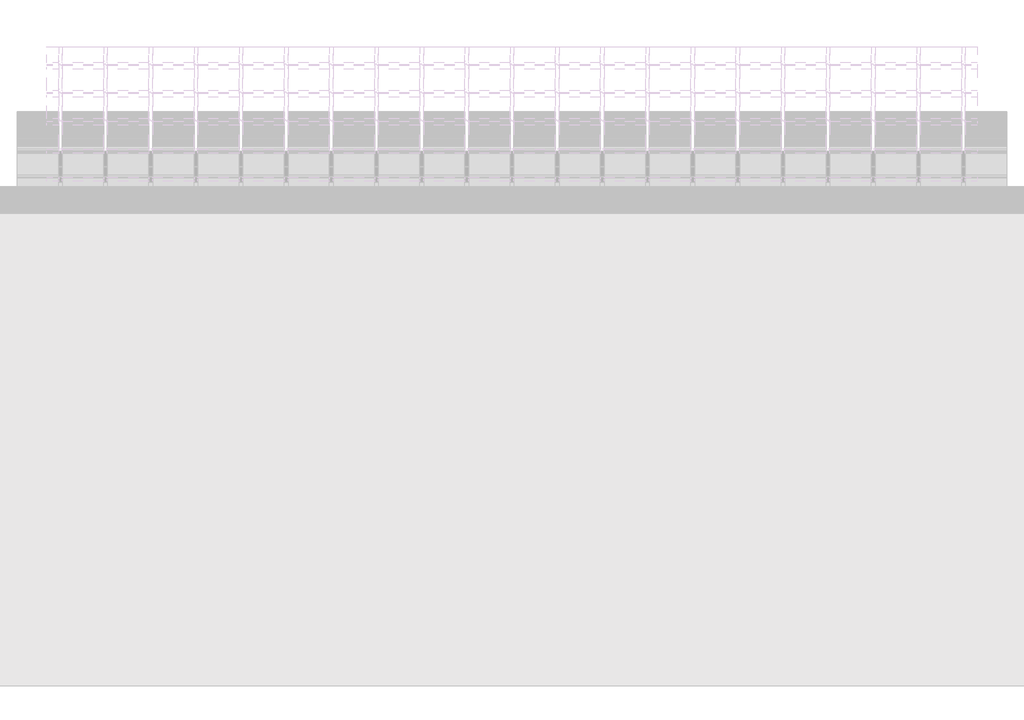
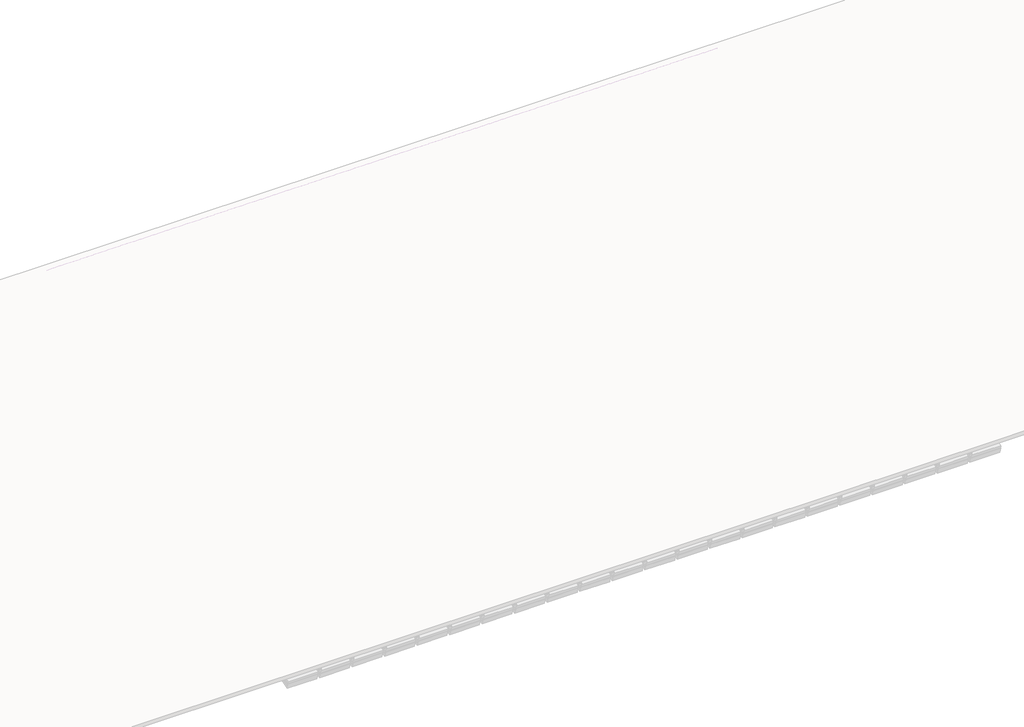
# One storey, part 37 of 57: 78 members, 46 plates.
"""IFC4 building model written with IfcOpenShell, lengths in millimetres."""

from ifc_helpers import new_model, si_unit, origin, place, context, project, spatial, transform, mapped, element, save
from components import rectangular_mullion_59984080, rectangular_mullion_2d2423ea, rectangular_mullion_caibro_e4384bba, rectangular_mullion_caibro_9bd7bc61, empty_system_panel_vazio_178faf58, empty_system_panel_vazio_2c78850d

model = new_model("IFC4")

# Units and contexts
model_context = context("Model", 3, world=origin())
ifc_project = project(units=[si_unit("LENGTHUNIT", "METRE", prefix="MILLI")], contexts=[model_context])

# Site, building, storey
site = spatial("IfcSite", under=ifc_project)
building = spatial("IfcBuilding", under=site)
storey = spatial("IfcBuildingStorey", under=building, Name="Nível 2", Elevation=4100.0)

# Members
placement = place(None, origin())
rectangular_mullion_shape = rectangular_mullion_59984080(model_context)
element("IfcMember", 1, ObjectType="Rectangular Mullion : Ripa", at=placement, inside=storey, context=model_context, shape_type="MappedRepresentation", body=[
    mapped(rectangular_mullion_shape, transform((30435.3089606, 10013.4695628, 4154.0900474), x_axis=(0.0, 0.9578262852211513, 0.2873478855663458), y_axis=(0.0, 0.2873478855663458, -0.9578262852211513), z_axis=(-1.0, 0.0, 0.0))),
])
element("IfcMember", 2, ObjectType="Rectangular Mullion : Ripa", at=placement, inside=storey, context=model_context, shape_type="MappedRepresentation", body=[
    mapped(rectangular_mullion_shape, transform((31032.363717, 10013.4695628, 4154.0900474), x_axis=(0.0, 0.9578262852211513, 0.2873478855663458), y_axis=(0.0, 0.2873478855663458, -0.9578262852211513), z_axis=(-1.0, 0.0, 0.0))),
])
element("IfcMember", 3, ObjectType="Rectangular Mullion : Ripa", at=placement, inside=storey, context=model_context, shape_type="MappedRepresentation", body=[
    mapped(rectangular_mullion_shape, transform((31629.4184734, 10013.4695628, 4154.0900474), x_axis=(0.0, 0.9578262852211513, 0.2873478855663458), y_axis=(0.0, 0.2873478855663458, -0.9578262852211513), z_axis=(-1.0, 0.0, 0.0))),
])
element("IfcMember", 4, ObjectType="Rectangular Mullion : Ripa", at=placement, inside=storey, context=model_context, shape_type="MappedRepresentation", body=[
    mapped(rectangular_mullion_shape, transform((30435.3089606, 10383.6468214, 4265.143225), x_axis=(0.0, 0.9578262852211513, 0.2873478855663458), y_axis=(0.0, 0.2873478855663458, -0.9578262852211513), z_axis=(-1.0, 0.0, 0.0))),
])
element("IfcMember", 5, ObjectType="Rectangular Mullion : Ripa", at=placement, inside=storey, context=model_context, shape_type="MappedRepresentation", body=[
    mapped(rectangular_mullion_shape, transform((31032.363717, 10383.6468214, 4265.143225), x_axis=(0.0, 0.9578262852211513, 0.2873478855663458), y_axis=(0.0, 0.2873478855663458, -0.9578262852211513), z_axis=(-1.0, 0.0, 0.0))),
])
element("IfcMember", 6, ObjectType="Rectangular Mullion : Ripa", at=placement, inside=storey, context=model_context, shape_type="MappedRepresentation", body=[
    mapped(rectangular_mullion_shape, transform((31629.4184734, 10383.6468214, 4265.143225), x_axis=(0.0, 0.9578262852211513, 0.2873478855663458), y_axis=(0.0, 0.2873478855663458, -0.9578262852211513), z_axis=(-1.0, 0.0, 0.0))),
])
element("IfcMember", 7, ObjectType="Rectangular Mullion : Ripa", at=placement, inside=storey, context=model_context, shape_type="MappedRepresentation", body=[
    mapped(rectangular_mullion_shape, transform((30435.3089606, 10753.8240801, 4376.1964026), x_axis=(0.0, 0.9578262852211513, 0.2873478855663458), y_axis=(0.0, 0.2873478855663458, -0.9578262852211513), z_axis=(-1.0, 0.0, 0.0))),
])
element("IfcMember", 8, ObjectType="Rectangular Mullion : Ripa", at=placement, inside=storey, context=model_context, shape_type="MappedRepresentation", body=[
    mapped(rectangular_mullion_shape, transform((31032.363717, 10753.8240801, 4376.1964026), x_axis=(0.0, 0.9578262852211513, 0.2873478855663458), y_axis=(0.0, 0.2873478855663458, -0.9578262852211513), z_axis=(-1.0, 0.0, 0.0))),
])
element("IfcMember", 9, ObjectType="Rectangular Mullion : Ripa", at=placement, inside=storey, context=model_context, shape_type="MappedRepresentation", body=[
    mapped(rectangular_mullion_shape, transform((31629.4184734, 10753.8240801, 4376.1964026), x_axis=(0.0, 0.9578262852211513, 0.2873478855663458), y_axis=(0.0, 0.2873478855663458, -0.9578262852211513), z_axis=(-1.0, 0.0, 0.0))),
])
element("IfcMember", 10, ObjectType="Rectangular Mullion : Ripa", at=placement, inside=storey, context=model_context, shape_type="MappedRepresentation", body=[
    mapped(rectangular_mullion_shape, transform((28047.0899349, 11124.0013387, 4487.2495802), x_axis=(0.0, 0.9578262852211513, 0.2873478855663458), y_axis=(0.0, 0.2873478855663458, -0.9578262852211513), z_axis=(-1.0, 0.0, 0.0))),
])
element("IfcMember", 11, ObjectType="Rectangular Mullion : Ripa", at=placement, inside=storey, context=model_context, shape_type="MappedRepresentation", body=[
    mapped(rectangular_mullion_shape, transform((28644.1446913, 11124.0013387, 4487.2495802), x_axis=(0.0, 0.9578262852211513, 0.2873478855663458), y_axis=(0.0, 0.2873478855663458, -0.9578262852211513), z_axis=(-1.0, 0.0, 0.0))),
])
element("IfcMember", 12, ObjectType="Rectangular Mullion : Ripa", at=placement, inside=storey, context=model_context, shape_type="MappedRepresentation", body=[
    mapped(rectangular_mullion_shape, transform((29241.1994477, 11124.0013387, 4487.2495802), x_axis=(0.0, 0.9578262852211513, 0.2873478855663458), y_axis=(0.0, 0.2873478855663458, -0.9578262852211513), z_axis=(-1.0, 0.0, 0.0))),
])
element("IfcMember", 13, ObjectType="Rectangular Mullion : Ripa", at=placement, inside=storey, context=model_context, shape_type="MappedRepresentation", body=[
    mapped(rectangular_mullion_shape, transform((29838.2542041, 11124.0013387, 4487.2495802), x_axis=(0.0, 0.9578262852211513, 0.2873478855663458), y_axis=(0.0, 0.2873478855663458, -0.9578262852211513), z_axis=(-1.0, 0.0, 0.0))),
])
element("IfcMember", 14, ObjectType="Rectangular Mullion : Ripa", at=placement, inside=storey, context=model_context, shape_type="MappedRepresentation", body=[
    mapped(rectangular_mullion_shape, transform((30435.3089606, 11124.0013387, 4487.2495802), x_axis=(0.0, 0.9578262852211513, 0.2873478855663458), y_axis=(0.0, 0.2873478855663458, -0.9578262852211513), z_axis=(-1.0, 0.0, 0.0))),
])
element("IfcMember", 15, ObjectType="Rectangular Mullion : Ripa", at=placement, inside=storey, context=model_context, shape_type="MappedRepresentation", body=[
    mapped(rectangular_mullion_shape, transform((31032.363717, 11124.0013387, 4487.2495802), x_axis=(0.0, 0.9578262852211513, 0.2873478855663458), y_axis=(0.0, 0.2873478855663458, -0.9578262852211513), z_axis=(-1.0, 0.0, 0.0))),
])
element("IfcMember", 16, ObjectType="Rectangular Mullion : Ripa", at=placement, inside=storey, context=model_context, shape_type="MappedRepresentation", body=[
    mapped(rectangular_mullion_shape, transform((31629.4184734, 11124.0013387, 4487.2495802), x_axis=(0.0, 0.9578262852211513, 0.2873478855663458), y_axis=(0.0, 0.2873478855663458, -0.9578262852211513), z_axis=(-1.0, 0.0, 0.0))),
])
element("IfcMember", 17, ObjectType="Rectangular Mullion : Ripa", at=placement, inside=storey, context=model_context, shape_type="MappedRepresentation", body=[
    mapped(rectangular_mullion_shape, transform((28047.0899349, 11494.1785974, 4598.3027578), x_axis=(0.0, 0.9578262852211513, 0.2873478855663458), y_axis=(0.0, 0.2873478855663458, -0.9578262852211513), z_axis=(-1.0, 0.0, 0.0))),
])
element("IfcMember", 18, ObjectType="Rectangular Mullion : Ripa", at=placement, inside=storey, context=model_context, shape_type="MappedRepresentation", body=[
    mapped(rectangular_mullion_shape, transform((28644.1446913, 11494.1785974, 4598.3027578), x_axis=(0.0, 0.9578262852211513, 0.2873478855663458), y_axis=(0.0, 0.2873478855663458, -0.9578262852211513), z_axis=(-1.0, 0.0, 0.0))),
])
element("IfcMember", 19, ObjectType="Rectangular Mullion : Ripa", at=placement, inside=storey, context=model_context, shape_type="MappedRepresentation", body=[
    mapped(rectangular_mullion_shape, transform((29241.1994477, 11494.1785974, 4598.3027578), x_axis=(0.0, 0.9578262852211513, 0.2873478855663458), y_axis=(0.0, 0.2873478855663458, -0.9578262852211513), z_axis=(-1.0, 0.0, 0.0))),
])
element("IfcMember", 20, ObjectType="Rectangular Mullion : Ripa", at=placement, inside=storey, context=model_context, shape_type="MappedRepresentation", body=[
    mapped(rectangular_mullion_shape, transform((29838.2542041, 11494.1785974, 4598.3027578), x_axis=(0.0, 0.9578262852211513, 0.2873478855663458), y_axis=(0.0, 0.2873478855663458, -0.9578262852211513), z_axis=(-1.0, 0.0, 0.0))),
])
element("IfcMember", 21, ObjectType="Rectangular Mullion : Ripa", at=placement, inside=storey, context=model_context, shape_type="MappedRepresentation", body=[
    mapped(rectangular_mullion_shape, transform((30435.3089606, 11494.1785974, 4598.3027578), x_axis=(0.0, 0.9578262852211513, 0.2873478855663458), y_axis=(0.0, 0.2873478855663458, -0.9578262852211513), z_axis=(-1.0, 0.0, 0.0))),
])
element("IfcMember", 22, ObjectType="Rectangular Mullion : Ripa", at=placement, inside=storey, context=model_context, shape_type="MappedRepresentation", body=[
    mapped(rectangular_mullion_shape, transform((31032.363717, 11494.1785974, 4598.3027578), x_axis=(0.0, 0.9578262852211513, 0.2873478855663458), y_axis=(0.0, 0.2873478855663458, -0.9578262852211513), z_axis=(-1.0, 0.0, 0.0))),
])
element("IfcMember", 23, ObjectType="Rectangular Mullion : Ripa", at=placement, inside=storey, context=model_context, shape_type="MappedRepresentation", body=[
    mapped(rectangular_mullion_shape, transform((31629.4184734, 11494.1785974, 4598.3027578), x_axis=(0.0, 0.9578262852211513, 0.2873478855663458), y_axis=(0.0, 0.2873478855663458, -0.9578262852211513), z_axis=(-1.0, 0.0, 0.0))),
])
element("IfcMember", 24, ObjectType="Rectangular Mullion : Ripa", at=placement, inside=storey, context=model_context, shape_type="MappedRepresentation", body=[
    mapped(rectangular_mullion_shape, transform((28047.0899349, 11864.3558561, 4709.3559354), x_axis=(0.0, 0.9578262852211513, 0.2873478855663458), y_axis=(0.0, 0.2873478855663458, -0.9578262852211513), z_axis=(-1.0, 0.0, 0.0))),
])
element("IfcMember", 25, ObjectType="Rectangular Mullion : Ripa", at=placement, inside=storey, context=model_context, shape_type="MappedRepresentation", body=[
    mapped(rectangular_mullion_shape, transform((28644.1446913, 11864.3558561, 4709.3559354), x_axis=(0.0, 0.9578262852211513, 0.2873478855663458), y_axis=(0.0, 0.2873478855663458, -0.9578262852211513), z_axis=(-1.0, 0.0, 0.0))),
])
element("IfcMember", 26, ObjectType="Rectangular Mullion : Ripa", at=placement, inside=storey, context=model_context, shape_type="MappedRepresentation", body=[
    mapped(rectangular_mullion_shape, transform((29241.1994477, 11864.3558561, 4709.3559354), x_axis=(0.0, 0.9578262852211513, 0.2873478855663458), y_axis=(0.0, 0.2873478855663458, -0.9578262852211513), z_axis=(-1.0, 0.0, 0.0))),
])
element("IfcMember", 27, ObjectType="Rectangular Mullion : Ripa", at=placement, inside=storey, context=model_context, shape_type="MappedRepresentation", body=[
    mapped(rectangular_mullion_shape, transform((29838.2542041, 11864.3558561, 4709.3559354), x_axis=(0.0, 0.9578262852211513, 0.2873478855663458), y_axis=(0.0, 0.2873478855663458, -0.9578262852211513), z_axis=(-1.0, 0.0, 0.0))),
])
element("IfcMember", 28, ObjectType="Rectangular Mullion : Ripa", at=placement, inside=storey, context=model_context, shape_type="MappedRepresentation", body=[
    mapped(rectangular_mullion_shape, transform((30435.3089606, 11864.3558561, 4709.3559354), x_axis=(0.0, 0.9578262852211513, 0.2873478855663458), y_axis=(0.0, 0.2873478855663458, -0.9578262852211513), z_axis=(-1.0, 0.0, 0.0))),
])
element("IfcMember", 29, ObjectType="Rectangular Mullion : Ripa", at=placement, inside=storey, context=model_context, shape_type="MappedRepresentation", body=[
    mapped(rectangular_mullion_shape, transform((31032.363717, 11864.3558561, 4709.3559354), x_axis=(0.0, 0.9578262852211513, 0.2873478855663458), y_axis=(0.0, 0.2873478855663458, -0.9578262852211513), z_axis=(-1.0, 0.0, 0.0))),
])
element("IfcMember", 30, ObjectType="Rectangular Mullion : Ripa", at=placement, inside=storey, context=model_context, shape_type="MappedRepresentation", body=[
    mapped(rectangular_mullion_shape, transform((31629.4184734, 11864.3558561, 4709.3559354), x_axis=(0.0, 0.9578262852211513, 0.2873478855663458), y_axis=(0.0, 0.2873478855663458, -0.9578262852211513), z_axis=(-1.0, 0.0, 0.0))),
])
element("IfcMember", 31, ObjectType="Rectangular Mullion : Ripa", at=placement, inside=storey, context=model_context, shape_type="MappedRepresentation", body=[
    mapped(rectangular_mullion_shape, transform((24464.7613963, 12234.5331147, 4820.409113), x_axis=(0.0, 0.9578262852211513, 0.2873478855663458), y_axis=(0.0, 0.2873478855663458, -0.9578262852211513), z_axis=(-1.0, 0.0, 0.0))),
])
element("IfcMember", 32, ObjectType="Rectangular Mullion : Ripa", at=placement, inside=storey, context=model_context, shape_type="MappedRepresentation", body=[
    mapped(rectangular_mullion_shape, transform((24464.7613963, 12604.7103734, 4931.4622906), x_axis=(0.0, 0.9578262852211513, 0.2873478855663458), y_axis=(0.0, 0.2873478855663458, -0.9578262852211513), z_axis=(-1.0, 0.0, 0.0))),
])
element("IfcMember", 33, ObjectType="Rectangular Mullion : Ripa", at=placement, inside=storey, context=model_context, shape_type="MappedRepresentation", body=[
    mapped(rectangular_mullion_shape, transform((24464.7613963, 12974.8876321, 5042.5154682), x_axis=(0.0, 0.9578262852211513, 0.2873478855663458), y_axis=(0.0, 0.2873478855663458, -0.9578262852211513), z_axis=(-1.0, 0.0, 0.0))),
])
rectangular_mullion_2_shape = rectangular_mullion_2d2423ea(model_context)
element("IfcMember", 34, ObjectType="Rectangular Mullion : Terça", at=placement, inside=storey, context=model_context, shape_type="MappedRepresentation", body=[
    mapped(rectangular_mullion_2_shape, transform((28047.0899349, 11285.144311, 4472.9506328), x_axis=(0.0, 0.9578262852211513, 0.2873478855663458), y_axis=(0.0, 0.2873478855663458, -0.9578262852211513), z_axis=(-1.0, 0.0, 0.0))),
])
element("IfcMember", 35, ObjectType="Rectangular Mullion : Terça", at=placement, inside=storey, context=model_context, shape_type="MappedRepresentation", body=[
    mapped(rectangular_mullion_2_shape, transform((28644.1446913, 11285.144311, 4472.9506328), x_axis=(0.0, 0.9578262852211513, 0.2873478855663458), y_axis=(0.0, 0.2873478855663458, -0.9578262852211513), z_axis=(-1.0, 0.0, 0.0))),
])
element("IfcMember", 36, ObjectType="Rectangular Mullion : Terça", at=placement, inside=storey, context=model_context, shape_type="MappedRepresentation", body=[
    mapped(rectangular_mullion_2_shape, transform((29241.1994477, 11285.144311, 4472.9506328), x_axis=(0.0, 0.9578262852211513, 0.2873478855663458), y_axis=(0.0, 0.2873478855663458, -0.9578262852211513), z_axis=(-1.0, 0.0, 0.0))),
])
element("IfcMember", 37, ObjectType="Rectangular Mullion : Terça", at=placement, inside=storey, context=model_context, shape_type="MappedRepresentation", body=[
    mapped(rectangular_mullion_2_shape, transform((29838.2542041, 11285.144311, 4472.9506328), x_axis=(0.0, 0.9578262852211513, 0.2873478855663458), y_axis=(0.0, 0.2873478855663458, -0.9578262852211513), z_axis=(-1.0, 0.0, 0.0))),
])
element("IfcMember", 38, ObjectType="Rectangular Mullion : Terça", at=placement, inside=storey, context=model_context, shape_type="MappedRepresentation", body=[
    mapped(rectangular_mullion_2_shape, transform((30435.3089606, 11285.144311, 4472.9506328), x_axis=(0.0, 0.9578262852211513, 0.2873478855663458), y_axis=(0.0, 0.2873478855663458, -0.9578262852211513), z_axis=(-1.0, 0.0, 0.0))),
])
element("IfcMember", 39, ObjectType="Rectangular Mullion : Terça", at=placement, inside=storey, context=model_context, shape_type="MappedRepresentation", body=[
    mapped(rectangular_mullion_2_shape, transform((31032.363717, 11285.144311, 4472.9506328), x_axis=(0.0, 0.9578262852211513, 0.2873478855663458), y_axis=(0.0, 0.2873478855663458, -0.9578262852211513), z_axis=(-1.0, 0.0, 0.0))),
])
element("IfcMember", 40, ObjectType="Rectangular Mullion : Terça", at=placement, inside=storey, context=model_context, shape_type="MappedRepresentation", body=[
    mapped(rectangular_mullion_2_shape, transform((31629.4184734, 11285.144311, 4472.9506328), x_axis=(0.0, 0.9578262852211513, 0.2873478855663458), y_axis=(0.0, 0.2873478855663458, -0.9578262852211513), z_axis=(-1.0, 0.0, 0.0))),
])
rectangular_mullion_caibro_shape = rectangular_mullion_caibro_e4384bba(model_context)
element("IfcMember", 41, ObjectType="Rectangular Mullion : Caibro", at=placement, inside=storey, context=model_context, shape_type="MappedRepresentation", body=[
    mapped(rectangular_mullion_caibro_shape, transform((24439.7613963, 12234.5331147, 4820.409113), x_axis=(1.0, 0.0, 0.0), y_axis=(0.0, 0.2873478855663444, -0.9578262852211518), z_axis=(0.0, 0.9578262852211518, 0.2873478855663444))),
])
element("IfcMember", 42, ObjectType="Rectangular Mullion : Caibro", at=placement, inside=storey, context=model_context, shape_type="MappedRepresentation", body=[
    mapped(rectangular_mullion_caibro_shape, transform((24439.7613963, 12604.7103734, 4931.4622906), x_axis=(1.0, 0.0, 0.0), y_axis=(0.0, 0.28734788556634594, -0.9578262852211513), z_axis=(0.0, 0.9578262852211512, 0.2873478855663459))),
])
element("IfcMember", 43, ObjectType="Rectangular Mullion : Caibro", at=placement, inside=storey, context=model_context, shape_type="MappedRepresentation", body=[
    mapped(rectangular_mullion_caibro_shape, transform((24439.7613963, 12974.8876321, 5042.5154682), x_axis=(1.0, 0.0, 0.0), y_axis=(0.0, 0.28734788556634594, -0.9578262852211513), z_axis=(0.0, 0.9578262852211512, 0.2873478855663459))),
])
element("IfcMember", 44, ObjectType="Rectangular Mullion : Caibro", at=placement, inside=storey, context=model_context, shape_type="MappedRepresentation", body=[
    mapped(rectangular_mullion_caibro_shape, transform((28022.0899349, 11864.3558561, 4709.3559354), x_axis=(1.0, 0.0, 0.0), y_axis=(0.0, 0.28734788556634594, -0.9578262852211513), z_axis=(0.0, 0.9578262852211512, 0.2873478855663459))),
])
element("IfcMember", 45, ObjectType="Rectangular Mullion : Caibro", at=placement, inside=storey, context=model_context, shape_type="MappedRepresentation", body=[
    mapped(rectangular_mullion_caibro_shape, transform((28619.1446913, 11124.0013387, 4487.2495802), x_axis=(1.0, 0.0, 0.0), y_axis=(0.0, 0.2873478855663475, -0.9578262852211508), z_axis=(0.0, 0.9578262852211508, 0.2873478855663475))),
])
element("IfcMember", 46, ObjectType="Rectangular Mullion : Caibro", at=placement, inside=storey, context=model_context, shape_type="MappedRepresentation", body=[
    mapped(rectangular_mullion_caibro_shape, transform((28619.1446913, 11494.1785974, 4598.3027578), x_axis=(1.0, 0.0, 0.0), y_axis=(0.0, 0.28734788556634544, -0.9578262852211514), z_axis=(0.0, 0.9578262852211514, 0.28734788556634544))),
])
element("IfcMember", 47, ObjectType="Rectangular Mullion : Caibro", at=placement, inside=storey, context=model_context, shape_type="MappedRepresentation", body=[
    mapped(rectangular_mullion_caibro_shape, transform((28619.1446913, 11864.3558561, 4709.3559354), x_axis=(1.0, 0.0, 0.0), y_axis=(0.0, 0.28734788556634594, -0.9578262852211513), z_axis=(0.0, 0.9578262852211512, 0.2873478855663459))),
])
element("IfcMember", 48, ObjectType="Rectangular Mullion : Caibro", at=placement, inside=storey, context=model_context, shape_type="MappedRepresentation", body=[
    mapped(rectangular_mullion_caibro_shape, transform((29216.1994477, 11124.0013387, 4487.2495802), x_axis=(1.0, 0.0, 0.0), y_axis=(0.0, 0.2873478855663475, -0.9578262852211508), z_axis=(0.0, 0.9578262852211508, 0.2873478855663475))),
])
element("IfcMember", 49, ObjectType="Rectangular Mullion : Caibro", at=placement, inside=storey, context=model_context, shape_type="MappedRepresentation", body=[
    mapped(rectangular_mullion_caibro_shape, transform((29216.1994477, 11494.1785974, 4598.3027578), x_axis=(1.0, 0.0, 0.0), y_axis=(0.0, 0.28734788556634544, -0.9578262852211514), z_axis=(0.0, 0.9578262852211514, 0.28734788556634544))),
])
element("IfcMember", 50, ObjectType="Rectangular Mullion : Caibro", at=placement, inside=storey, context=model_context, shape_type="MappedRepresentation", body=[
    mapped(rectangular_mullion_caibro_shape, transform((29216.1994477, 11864.3558561, 4709.3559354), x_axis=(1.0, 0.0, 0.0), y_axis=(0.0, 0.28734788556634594, -0.9578262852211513), z_axis=(0.0, 0.9578262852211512, 0.2873478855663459))),
])
element("IfcMember", 51, ObjectType="Rectangular Mullion : Caibro", at=placement, inside=storey, context=model_context, shape_type="MappedRepresentation", body=[
    mapped(rectangular_mullion_caibro_shape, transform((29813.2542041, 11124.0013387, 4487.2495802), x_axis=(1.0, 0.0, 0.0), y_axis=(0.0, 0.28734788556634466, -0.9578262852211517), z_axis=(0.0, 0.9578262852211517, 0.28734788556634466))),
])
element("IfcMember", 52, ObjectType="Rectangular Mullion : Caibro", at=placement, inside=storey, context=model_context, shape_type="MappedRepresentation", body=[
    mapped(rectangular_mullion_caibro_shape, transform((29813.2542041, 11494.1785974, 4598.3027578), x_axis=(1.0, 0.0, 0.0), y_axis=(0.0, 0.287347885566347, -0.9578262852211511), z_axis=(0.0, 0.9578262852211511, 0.287347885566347))),
])
element("IfcMember", 53, ObjectType="Rectangular Mullion : Caibro", at=placement, inside=storey, context=model_context, shape_type="MappedRepresentation", body=[
    mapped(rectangular_mullion_caibro_shape, transform((29813.2542041, 11864.3558561, 4709.3559354), x_axis=(1.0, 0.0, 0.0), y_axis=(0.0, 0.28734788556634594, -0.9578262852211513), z_axis=(0.0, 0.9578262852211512, 0.2873478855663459))),
])
element("IfcMember", 54, ObjectType="Rectangular Mullion : Caibro", at=placement, inside=storey, context=model_context, shape_type="MappedRepresentation", body=[
    mapped(rectangular_mullion_caibro_shape, transform((30410.3089606, 10013.4695628, 4154.0900474), x_axis=(1.0, 0.0, 0.0), y_axis=(0.0, 0.287347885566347, -0.9578262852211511), z_axis=(0.0, 0.9578262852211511, 0.287347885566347))),
])
element("IfcMember", 55, ObjectType="Rectangular Mullion : Caibro", at=placement, inside=storey, context=model_context, shape_type="MappedRepresentation", body=[
    mapped(rectangular_mullion_caibro_shape, transform((30410.3089606, 10383.6468214, 4265.143225), x_axis=(1.0, 0.0, 0.0), y_axis=(0.0, 0.28734788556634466, -0.9578262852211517), z_axis=(0.0, 0.9578262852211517, 0.28734788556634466))),
])
element("IfcMember", 56, ObjectType="Rectangular Mullion : Caibro", at=placement, inside=storey, context=model_context, shape_type="MappedRepresentation", body=[
    mapped(rectangular_mullion_caibro_shape, transform((30410.3089606, 10753.8240801, 4376.1964026), x_axis=(1.0, 0.0, 0.0), y_axis=(0.0, 0.28734788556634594, -0.9578262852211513), z_axis=(0.0, 0.9578262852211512, 0.2873478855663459))),
])
element("IfcMember", 57, ObjectType="Rectangular Mullion : Caibro", at=placement, inside=storey, context=model_context, shape_type="MappedRepresentation", body=[
    mapped(rectangular_mullion_caibro_shape, transform((30410.3089606, 11124.0013387, 4487.2495802), x_axis=(1.0, 0.0, 0.0), y_axis=(0.0, 0.28734788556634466, -0.9578262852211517), z_axis=(0.0, 0.9578262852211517, 0.28734788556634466))),
])
element("IfcMember", 58, ObjectType="Rectangular Mullion : Caibro", at=placement, inside=storey, context=model_context, shape_type="MappedRepresentation", body=[
    mapped(rectangular_mullion_caibro_shape, transform((30410.3089606, 11494.1785974, 4598.3027578), x_axis=(1.0, 0.0, 0.0), y_axis=(0.0, 0.287347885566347, -0.9578262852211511), z_axis=(0.0, 0.9578262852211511, 0.287347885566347))),
])
element("IfcMember", 59, ObjectType="Rectangular Mullion : Caibro", at=placement, inside=storey, context=model_context, shape_type="MappedRepresentation", body=[
    mapped(rectangular_mullion_caibro_shape, transform((30410.3089606, 11864.3558561, 4709.3559354), x_axis=(1.0, 0.0, 0.0), y_axis=(0.0, 0.28734788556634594, -0.9578262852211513), z_axis=(0.0, 0.9578262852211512, 0.2873478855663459))),
])
element("IfcMember", 60, ObjectType="Rectangular Mullion : Caibro", at=placement, inside=storey, context=model_context, shape_type="MappedRepresentation", body=[
    mapped(rectangular_mullion_caibro_shape, transform((31007.363717, 10013.4695628, 4154.0900474), x_axis=(1.0, 0.0, 0.0), y_axis=(0.0, 0.287347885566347, -0.9578262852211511), z_axis=(0.0, 0.9578262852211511, 0.287347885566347))),
])
element("IfcMember", 61, ObjectType="Rectangular Mullion : Caibro", at=placement, inside=storey, context=model_context, shape_type="MappedRepresentation", body=[
    mapped(rectangular_mullion_caibro_shape, transform((31007.363717, 10383.6468214, 4265.143225), x_axis=(1.0, 0.0, 0.0), y_axis=(0.0, 0.28734788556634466, -0.9578262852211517), z_axis=(0.0, 0.9578262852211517, 0.28734788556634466))),
])
element("IfcMember", 62, ObjectType="Rectangular Mullion : Caibro", at=placement, inside=storey, context=model_context, shape_type="MappedRepresentation", body=[
    mapped(rectangular_mullion_caibro_shape, transform((31007.363717, 10753.8240801, 4376.1964026), x_axis=(1.0, 0.0, 0.0), y_axis=(0.0, 0.28734788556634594, -0.9578262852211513), z_axis=(0.0, 0.9578262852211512, 0.2873478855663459))),
])
element("IfcMember", 63, ObjectType="Rectangular Mullion : Caibro", at=placement, inside=storey, context=model_context, shape_type="MappedRepresentation", body=[
    mapped(rectangular_mullion_caibro_shape, transform((31007.363717, 11124.0013387, 4487.2495802), x_axis=(1.0, 0.0, 0.0), y_axis=(0.0, 0.28734788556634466, -0.9578262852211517), z_axis=(0.0, 0.9578262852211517, 0.28734788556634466))),
])
element("IfcMember", 64, ObjectType="Rectangular Mullion : Caibro", at=placement, inside=storey, context=model_context, shape_type="MappedRepresentation", body=[
    mapped(rectangular_mullion_caibro_shape, transform((31007.363717, 11494.1785974, 4598.3027578), x_axis=(1.0, 0.0, 0.0), y_axis=(0.0, 0.287347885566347, -0.9578262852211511), z_axis=(0.0, 0.9578262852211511, 0.287347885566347))),
])
element("IfcMember", 65, ObjectType="Rectangular Mullion : Caibro", at=placement, inside=storey, context=model_context, shape_type="MappedRepresentation", body=[
    mapped(rectangular_mullion_caibro_shape, transform((31007.363717, 11864.3558561, 4709.3559354), x_axis=(1.0, 0.0, 0.0), y_axis=(0.0, 0.28734788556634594, -0.9578262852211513), z_axis=(0.0, 0.9578262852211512, 0.2873478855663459))),
])
element("IfcMember", 66, ObjectType="Rectangular Mullion : Caibro", at=placement, inside=storey, context=model_context, shape_type="MappedRepresentation", body=[
    mapped(rectangular_mullion_caibro_shape, transform((31604.4184734, 10013.4695628, 4154.0900474), x_axis=(1.0, 0.0, 0.0), y_axis=(0.0, 0.287347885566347, -0.9578262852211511), z_axis=(0.0, 0.9578262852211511, 0.287347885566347))),
])
element("IfcMember", 67, ObjectType="Rectangular Mullion : Caibro", at=placement, inside=storey, context=model_context, shape_type="MappedRepresentation", body=[
    mapped(rectangular_mullion_caibro_shape, transform((31604.4184734, 10383.6468214, 4265.143225), x_axis=(1.0, 0.0, 0.0), y_axis=(0.0, 0.28734788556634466, -0.9578262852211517), z_axis=(0.0, 0.9578262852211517, 0.28734788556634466))),
])
element("IfcMember", 68, ObjectType="Rectangular Mullion : Caibro", at=placement, inside=storey, context=model_context, shape_type="MappedRepresentation", body=[
    mapped(rectangular_mullion_caibro_shape, transform((31604.4184734, 10753.8240801, 4376.1964026), x_axis=(1.0, 0.0, 0.0), y_axis=(0.0, 0.28734788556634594, -0.9578262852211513), z_axis=(0.0, 0.9578262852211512, 0.2873478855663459))),
])
element("IfcMember", 69, ObjectType="Rectangular Mullion : Caibro", at=placement, inside=storey, context=model_context, shape_type="MappedRepresentation", body=[
    mapped(rectangular_mullion_caibro_shape, transform((31604.4184734, 11124.0013387, 4487.2495802), x_axis=(1.0, 0.0, 0.0), y_axis=(0.0, 0.28734788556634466, -0.9578262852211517), z_axis=(0.0, 0.9578262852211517, 0.28734788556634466))),
])
element("IfcMember", 70, ObjectType="Rectangular Mullion : Caibro", at=placement, inside=storey, context=model_context, shape_type="MappedRepresentation", body=[
    mapped(rectangular_mullion_caibro_shape, transform((31604.4184734, 11494.1785974, 4598.3027578), x_axis=(1.0, 0.0, 0.0), y_axis=(0.0, 0.287347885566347, -0.9578262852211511), z_axis=(0.0, 0.9578262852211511, 0.287347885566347))),
])
element("IfcMember", 71, ObjectType="Rectangular Mullion : Caibro", at=placement, inside=storey, context=model_context, shape_type="MappedRepresentation", body=[
    mapped(rectangular_mullion_caibro_shape, transform((31604.4184734, 11864.3558561, 4709.3559354), x_axis=(1.0, 0.0, 0.0), y_axis=(0.0, 0.28734788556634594, -0.9578262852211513), z_axis=(0.0, 0.9578262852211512, 0.2873478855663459))),
])
rectangular_mullion_caibro_2_shape = rectangular_mullion_caibro_9bd7bc61(model_context)
element("IfcMember", 72, ObjectType="Rectangular Mullion : Caibro", at=placement, inside=storey, context=model_context, shape_type="MappedRepresentation", body=[
    mapped(rectangular_mullion_caibro_2_shape, transform((28022.0899349, 11285.144311, 4472.9506328), x_axis=(1.0, 0.0, 0.0), y_axis=(0.0, 0.28734788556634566, -0.9578262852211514), z_axis=(0.0, 0.9578262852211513, 0.2873478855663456))),
])
element("IfcMember", 73, ObjectType="Rectangular Mullion : Caibro", at=placement, inside=storey, context=model_context, shape_type="MappedRepresentation", body=[
    mapped(rectangular_mullion_caibro_2_shape, transform((28619.1446913, 11285.144311, 4472.9506328), x_axis=(1.0, 0.0, 0.0), y_axis=(0.0, 0.28734788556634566, -0.9578262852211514), z_axis=(0.0, 0.9578262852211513, 0.2873478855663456))),
])
element("IfcMember", 74, ObjectType="Rectangular Mullion : Caibro", at=placement, inside=storey, context=model_context, shape_type="MappedRepresentation", body=[
    mapped(rectangular_mullion_caibro_2_shape, transform((29216.1994477, 11285.144311, 4472.9506328), x_axis=(1.0, 0.0, 0.0), y_axis=(0.0, 0.28734788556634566, -0.9578262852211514), z_axis=(0.0, 0.9578262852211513, 0.2873478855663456))),
])
element("IfcMember", 75, ObjectType="Rectangular Mullion : Caibro", at=placement, inside=storey, context=model_context, shape_type="MappedRepresentation", body=[
    mapped(rectangular_mullion_caibro_2_shape, transform((29813.2542041, 11285.144311, 4472.9506328), x_axis=(1.0, 0.0, 0.0), y_axis=(0.0, 0.28734788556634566, -0.9578262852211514), z_axis=(0.0, 0.9578262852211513, 0.2873478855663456))),
])
element("IfcMember", 76, ObjectType="Rectangular Mullion : Caibro", at=placement, inside=storey, context=model_context, shape_type="MappedRepresentation", body=[
    mapped(rectangular_mullion_caibro_2_shape, transform((30410.3089606, 11285.144311, 4472.9506328), x_axis=(1.0, 0.0, 0.0), y_axis=(0.0, 0.28734788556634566, -0.9578262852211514), z_axis=(0.0, 0.9578262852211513, 0.2873478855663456))),
])
element("IfcMember", 77, ObjectType="Rectangular Mullion : Caibro", at=placement, inside=storey, context=model_context, shape_type="MappedRepresentation", body=[
    mapped(rectangular_mullion_caibro_2_shape, transform((31007.363717, 11285.144311, 4472.9506328), x_axis=(1.0, 0.0, 0.0), y_axis=(0.0, 0.28734788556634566, -0.9578262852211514), z_axis=(0.0, 0.9578262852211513, 0.2873478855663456))),
])
element("IfcMember", 78, ObjectType="Rectangular Mullion : Caibro", at=placement, inside=storey, context=model_context, shape_type="MappedRepresentation", body=[
    mapped(rectangular_mullion_caibro_2_shape, transform((31604.4184734, 11285.144311, 4472.9506328), x_axis=(1.0, 0.0, 0.0), y_axis=(0.0, 0.28734788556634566, -0.9578262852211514), z_axis=(0.0, 0.9578262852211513, 0.2873478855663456))),
])

# Plates
empty_system_panel_vazio_shape = empty_system_panel_vazio_178faf58(model_context)
element("IfcPlate", 79, ObjectType="Empty System Panel : Vazio", at=placement, inside=storey, context=model_context, shape_type="MappedRepresentation", body=[
    mapped(empty_system_panel_vazio_shape, transform((30111.7815823, 10013.4695628, 4154.0900474), x_axis=(1.0, 0.0, 0.0), y_axis=(0.0, 0.2873478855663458, -0.9578262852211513), z_axis=(0.0, 0.9578262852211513, 0.2873478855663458))),
])
element("IfcPlate", 80, ObjectType="Empty System Panel : Vazio", at=placement, inside=storey, context=model_context, shape_type="MappedRepresentation", body=[
    mapped(empty_system_panel_vazio_shape, transform((30708.8363388, 10013.4695628, 4154.0900474), x_axis=(1.0, 0.0, 0.0), y_axis=(0.0, 0.2873478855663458, -0.9578262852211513), z_axis=(0.0, 0.9578262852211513, 0.2873478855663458))),
])
element("IfcPlate", 81, ObjectType="Empty System Panel : Vazio", at=placement, inside=storey, context=model_context, shape_type="MappedRepresentation", body=[
    mapped(empty_system_panel_vazio_shape, transform((31305.8910952, 10013.4695628, 4154.0900474), x_axis=(1.0, 0.0, 0.0), y_axis=(0.0, 0.2873478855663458, -0.9578262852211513), z_axis=(0.0, 0.9578262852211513, 0.2873478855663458))),
])
element("IfcPlate", 82, ObjectType="Empty System Panel : Vazio", at=placement, inside=storey, context=model_context, shape_type="MappedRepresentation", body=[
    mapped(empty_system_panel_vazio_shape, transform((31902.9458516, 10013.4695628, 4154.0900474), x_axis=(1.0, 0.0, 0.0), y_axis=(0.0, 0.2873478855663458, -0.9578262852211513), z_axis=(0.0, 0.9578262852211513, 0.2873478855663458))),
])
element("IfcPlate", 83, ObjectType="Empty System Panel : Vazio", at=placement, inside=storey, context=model_context, shape_type="MappedRepresentation", body=[
    mapped(empty_system_panel_vazio_shape, transform((30111.7815823, 10383.6468214, 4265.143225), x_axis=(1.0, 0.0, 0.0), y_axis=(0.0, 0.2873478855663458, -0.9578262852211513), z_axis=(0.0, 0.9578262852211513, 0.2873478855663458))),
])
element("IfcPlate", 84, ObjectType="Empty System Panel : Vazio", at=placement, inside=storey, context=model_context, shape_type="MappedRepresentation", body=[
    mapped(empty_system_panel_vazio_shape, transform((30708.8363388, 10383.6468214, 4265.143225), x_axis=(1.0, 0.0, 0.0), y_axis=(0.0, 0.2873478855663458, -0.9578262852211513), z_axis=(0.0, 0.9578262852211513, 0.2873478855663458))),
])
element("IfcPlate", 85, ObjectType="Empty System Panel : Vazio", at=placement, inside=storey, context=model_context, shape_type="MappedRepresentation", body=[
    mapped(empty_system_panel_vazio_shape, transform((31305.8910952, 10383.6468214, 4265.143225), x_axis=(1.0, 0.0, 0.0), y_axis=(0.0, 0.2873478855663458, -0.9578262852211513), z_axis=(0.0, 0.9578262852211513, 0.2873478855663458))),
])
element("IfcPlate", 86, ObjectType="Empty System Panel : Vazio", at=placement, inside=storey, context=model_context, shape_type="MappedRepresentation", body=[
    mapped(empty_system_panel_vazio_shape, transform((31902.9458516, 10383.6468214, 4265.143225), x_axis=(1.0, 0.0, 0.0), y_axis=(0.0, 0.2873478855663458, -0.9578262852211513), z_axis=(0.0, 0.9578262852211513, 0.2873478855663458))),
])
element("IfcPlate", 87, ObjectType="Empty System Panel : Vazio", at=placement, inside=storey, context=model_context, shape_type="MappedRepresentation", body=[
    mapped(empty_system_panel_vazio_shape, transform((30111.7815823, 10753.8240801, 4376.1964026), x_axis=(1.0, 0.0, 0.0), y_axis=(0.0, 0.2873478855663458, -0.9578262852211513), z_axis=(0.0, 0.9578262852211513, 0.2873478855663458))),
])
element("IfcPlate", 88, ObjectType="Empty System Panel : Vazio", at=placement, inside=storey, context=model_context, shape_type="MappedRepresentation", body=[
    mapped(empty_system_panel_vazio_shape, transform((30708.8363388, 10753.8240801, 4376.1964026), x_axis=(1.0, 0.0, 0.0), y_axis=(0.0, 0.2873478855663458, -0.9578262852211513), z_axis=(0.0, 0.9578262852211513, 0.2873478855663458))),
])
element("IfcPlate", 89, ObjectType="Empty System Panel : Vazio", at=placement, inside=storey, context=model_context, shape_type="MappedRepresentation", body=[
    mapped(empty_system_panel_vazio_shape, transform((31305.8910952, 10753.8240801, 4376.1964026), x_axis=(1.0, 0.0, 0.0), y_axis=(0.0, 0.2873478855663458, -0.9578262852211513), z_axis=(0.0, 0.9578262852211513, 0.2873478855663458))),
])
element("IfcPlate", 90, ObjectType="Empty System Panel : Vazio", at=placement, inside=storey, context=model_context, shape_type="MappedRepresentation", body=[
    mapped(empty_system_panel_vazio_shape, transform((31902.9458516, 10753.8240801, 4376.1964026), x_axis=(1.0, 0.0, 0.0), y_axis=(0.0, 0.2873478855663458, -0.9578262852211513), z_axis=(0.0, 0.9578262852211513, 0.2873478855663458))),
])
element("IfcPlate", 91, ObjectType="Empty System Panel : Vazio", at=placement, inside=storey, context=model_context, shape_type="MappedRepresentation", body=[
    mapped(empty_system_panel_vazio_shape, transform((29514.7268259, 11124.0013387, 4487.2495802), x_axis=(1.0, 0.0, 0.0), y_axis=(0.0, 0.2873478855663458, -0.9578262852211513), z_axis=(0.0, 0.9578262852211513, 0.2873478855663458))),
])
element("IfcPlate", 92, ObjectType="Empty System Panel : Vazio", at=placement, inside=storey, context=model_context, shape_type="MappedRepresentation", body=[
    mapped(empty_system_panel_vazio_shape, transform((30111.7815823, 11124.0013387, 4487.2495802), x_axis=(1.0, 0.0, 0.0), y_axis=(0.0, 0.2873478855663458, -0.9578262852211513), z_axis=(0.0, 0.9578262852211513, 0.2873478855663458))),
])
element("IfcPlate", 93, ObjectType="Empty System Panel : Vazio", at=placement, inside=storey, context=model_context, shape_type="MappedRepresentation", body=[
    mapped(empty_system_panel_vazio_shape, transform((30708.8363388, 11124.0013387, 4487.2495802), x_axis=(1.0, 0.0, 0.0), y_axis=(0.0, 0.2873478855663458, -0.9578262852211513), z_axis=(0.0, 0.9578262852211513, 0.2873478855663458))),
])
element("IfcPlate", 94, ObjectType="Empty System Panel : Vazio", at=placement, inside=storey, context=model_context, shape_type="MappedRepresentation", body=[
    mapped(empty_system_panel_vazio_shape, transform((31305.8910952, 11124.0013387, 4487.2495802), x_axis=(1.0, 0.0, 0.0), y_axis=(0.0, 0.2873478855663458, -0.9578262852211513), z_axis=(0.0, 0.9578262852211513, 0.2873478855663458))),
])
element("IfcPlate", 95, ObjectType="Empty System Panel : Vazio", at=placement, inside=storey, context=model_context, shape_type="MappedRepresentation", body=[
    mapped(empty_system_panel_vazio_shape, transform((31902.9458516, 11124.0013387, 4487.2495802), x_axis=(1.0, 0.0, 0.0), y_axis=(0.0, 0.2873478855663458, -0.9578262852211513), z_axis=(0.0, 0.9578262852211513, 0.2873478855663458))),
])
element("IfcPlate", 96, ObjectType="Empty System Panel : Vazio", at=placement, inside=storey, context=model_context, shape_type="MappedRepresentation", body=[
    mapped(empty_system_panel_vazio_shape, transform((29514.7268259, 11494.1785974, 4598.3027578), x_axis=(1.0, 0.0, 0.0), y_axis=(0.0, 0.2873478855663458, -0.9578262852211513), z_axis=(0.0, 0.9578262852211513, 0.2873478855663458))),
])
element("IfcPlate", 97, ObjectType="Empty System Panel : Vazio", at=placement, inside=storey, context=model_context, shape_type="MappedRepresentation", body=[
    mapped(empty_system_panel_vazio_shape, transform((30111.7815823, 11494.1785974, 4598.3027578), x_axis=(1.0, 0.0, 0.0), y_axis=(0.0, 0.2873478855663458, -0.9578262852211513), z_axis=(0.0, 0.9578262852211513, 0.2873478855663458))),
])
element("IfcPlate", 98, ObjectType="Empty System Panel : Vazio", at=placement, inside=storey, context=model_context, shape_type="MappedRepresentation", body=[
    mapped(empty_system_panel_vazio_shape, transform((30708.8363388, 11494.1785974, 4598.3027578), x_axis=(1.0, 0.0, 0.0), y_axis=(0.0, 0.2873478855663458, -0.9578262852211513), z_axis=(0.0, 0.9578262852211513, 0.2873478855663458))),
])
element("IfcPlate", 99, ObjectType="Empty System Panel : Vazio", at=placement, inside=storey, context=model_context, shape_type="MappedRepresentation", body=[
    mapped(empty_system_panel_vazio_shape, transform((31305.8910952, 11494.1785974, 4598.3027578), x_axis=(1.0, 0.0, 0.0), y_axis=(0.0, 0.2873478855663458, -0.9578262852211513), z_axis=(0.0, 0.9578262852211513, 0.2873478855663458))),
])
element("IfcPlate", 100, ObjectType="Empty System Panel : Vazio", at=placement, inside=storey, context=model_context, shape_type="MappedRepresentation", body=[
    mapped(empty_system_panel_vazio_shape, transform((31902.9458516, 11494.1785974, 4598.3027578), x_axis=(1.0, 0.0, 0.0), y_axis=(0.0, 0.2873478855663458, -0.9578262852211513), z_axis=(0.0, 0.9578262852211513, 0.2873478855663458))),
])
element("IfcPlate", 101, ObjectType="Empty System Panel : Vazio", at=placement, inside=storey, context=model_context, shape_type="MappedRepresentation", body=[
    mapped(empty_system_panel_vazio_shape, transform((29514.7268259, 11864.3558561, 4709.3559354), x_axis=(1.0, 0.0, 0.0), y_axis=(0.0, 0.2873478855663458, -0.9578262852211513), z_axis=(0.0, 0.9578262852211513, 0.2873478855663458))),
])
element("IfcPlate", 102, ObjectType="Empty System Panel : Vazio", at=placement, inside=storey, context=model_context, shape_type="MappedRepresentation", body=[
    mapped(empty_system_panel_vazio_shape, transform((30111.7815823, 11864.3558561, 4709.3559354), x_axis=(1.0, 0.0, 0.0), y_axis=(0.0, 0.2873478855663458, -0.9578262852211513), z_axis=(0.0, 0.9578262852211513, 0.2873478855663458))),
])
element("IfcPlate", 103, ObjectType="Empty System Panel : Vazio", at=placement, inside=storey, context=model_context, shape_type="MappedRepresentation", body=[
    mapped(empty_system_panel_vazio_shape, transform((30708.8363388, 11864.3558561, 4709.3559354), x_axis=(1.0, 0.0, 0.0), y_axis=(0.0, 0.2873478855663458, -0.9578262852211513), z_axis=(0.0, 0.9578262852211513, 0.2873478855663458))),
])
element("IfcPlate", 104, ObjectType="Empty System Panel : Vazio", at=placement, inside=storey, context=model_context, shape_type="MappedRepresentation", body=[
    mapped(empty_system_panel_vazio_shape, transform((31305.8910952, 11864.3558561, 4709.3559354), x_axis=(1.0, 0.0, 0.0), y_axis=(0.0, 0.2873478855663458, -0.9578262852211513), z_axis=(0.0, 0.9578262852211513, 0.2873478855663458))),
])
element("IfcPlate", 105, ObjectType="Empty System Panel : Vazio", at=placement, inside=storey, context=model_context, shape_type="MappedRepresentation", body=[
    mapped(empty_system_panel_vazio_shape, transform((31902.9458516, 11864.3558561, 4709.3559354), x_axis=(1.0, 0.0, 0.0), y_axis=(0.0, 0.2873478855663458, -0.9578262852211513), z_axis=(0.0, 0.9578262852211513, 0.2873478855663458))),
])
element("IfcPlate", 106, ObjectType="Empty System Panel : Vazio", at=placement, inside=storey, context=model_context, shape_type="MappedRepresentation", body=[
    mapped(empty_system_panel_vazio_shape, transform((24141.2340181, 12234.5331147, 4820.409113), x_axis=(1.0, 0.0, 0.0), y_axis=(0.0, 0.2873478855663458, -0.9578262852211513), z_axis=(0.0, 0.9578262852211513, 0.2873478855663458))),
])
element("IfcPlate", 107, ObjectType="Empty System Panel : Vazio", at=placement, inside=storey, context=model_context, shape_type="MappedRepresentation", body=[
    mapped(empty_system_panel_vazio_shape, transform((24738.2887745, 12234.5331147, 4820.409113), x_axis=(1.0, 0.0, 0.0), y_axis=(0.0, 0.2873478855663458, -0.9578262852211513), z_axis=(0.0, 0.9578262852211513, 0.2873478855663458))),
])
element("IfcPlate", 108, ObjectType="Empty System Panel : Vazio", at=placement, inside=storey, context=model_context, shape_type="MappedRepresentation", body=[
    mapped(empty_system_panel_vazio_shape, transform((25335.3435309, 12234.5331147, 4820.409113), x_axis=(1.0, 0.0, 0.0), y_axis=(0.0, 0.2873478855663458, -0.9578262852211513), z_axis=(0.0, 0.9578262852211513, 0.2873478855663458))),
])
element("IfcPlate", 109, ObjectType="Empty System Panel : Vazio", at=placement, inside=storey, context=model_context, shape_type="MappedRepresentation", body=[
    mapped(empty_system_panel_vazio_shape, transform((25932.3982874, 12234.5331147, 4820.409113), x_axis=(1.0, 0.0, 0.0), y_axis=(0.0, 0.2873478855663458, -0.9578262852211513), z_axis=(0.0, 0.9578262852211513, 0.2873478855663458))),
])
element("IfcPlate", 110, ObjectType="Empty System Panel : Vazio", at=placement, inside=storey, context=model_context, shape_type="MappedRepresentation", body=[
    mapped(empty_system_panel_vazio_shape, transform((24141.2340181, 12604.7103734, 4931.4622906), x_axis=(1.0, 0.0, 0.0), y_axis=(0.0, 0.2873478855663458, -0.9578262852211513), z_axis=(0.0, 0.9578262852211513, 0.2873478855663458))),
])
element("IfcPlate", 111, ObjectType="Empty System Panel : Vazio", at=placement, inside=storey, context=model_context, shape_type="MappedRepresentation", body=[
    mapped(empty_system_panel_vazio_shape, transform((24738.2887745, 12604.7103734, 4931.4622906), x_axis=(1.0, 0.0, 0.0), y_axis=(0.0, 0.2873478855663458, -0.9578262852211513), z_axis=(0.0, 0.9578262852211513, 0.2873478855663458))),
])
element("IfcPlate", 112, ObjectType="Empty System Panel : Vazio", at=placement, inside=storey, context=model_context, shape_type="MappedRepresentation", body=[
    mapped(empty_system_panel_vazio_shape, transform((25335.3435309, 12604.7103734, 4931.4622906), x_axis=(1.0, 0.0, 0.0), y_axis=(0.0, 0.2873478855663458, -0.9578262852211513), z_axis=(0.0, 0.9578262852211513, 0.2873478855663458))),
])
element("IfcPlate", 113, ObjectType="Empty System Panel : Vazio", at=placement, inside=storey, context=model_context, shape_type="MappedRepresentation", body=[
    mapped(empty_system_panel_vazio_shape, transform((25932.3982874, 12604.7103734, 4931.4622906), x_axis=(1.0, 0.0, 0.0), y_axis=(0.0, 0.2873478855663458, -0.9578262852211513), z_axis=(0.0, 0.9578262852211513, 0.2873478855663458))),
])
element("IfcPlate", 114, ObjectType="Empty System Panel : Vazio", at=placement, inside=storey, context=model_context, shape_type="MappedRepresentation", body=[
    mapped(empty_system_panel_vazio_shape, transform((24141.2340181, 12974.8876321, 5042.5154682), x_axis=(1.0, 0.0, 0.0), y_axis=(0.0, 0.2873478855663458, -0.9578262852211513), z_axis=(0.0, 0.9578262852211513, 0.2873478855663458))),
])
element("IfcPlate", 115, ObjectType="Empty System Panel : Vazio", at=placement, inside=storey, context=model_context, shape_type="MappedRepresentation", body=[
    mapped(empty_system_panel_vazio_shape, transform((24738.2887745, 12974.8876321, 5042.5154682), x_axis=(1.0, 0.0, 0.0), y_axis=(0.0, 0.2873478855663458, -0.9578262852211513), z_axis=(0.0, 0.9578262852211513, 0.2873478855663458))),
])
element("IfcPlate", 116, ObjectType="Empty System Panel : Vazio", at=placement, inside=storey, context=model_context, shape_type="MappedRepresentation", body=[
    mapped(empty_system_panel_vazio_shape, transform((25335.3435309, 12974.8876321, 5042.5154682), x_axis=(1.0, 0.0, 0.0), y_axis=(0.0, 0.2873478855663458, -0.9578262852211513), z_axis=(0.0, 0.9578262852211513, 0.2873478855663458))),
])
element("IfcPlate", 117, ObjectType="Empty System Panel : Vazio", at=placement, inside=storey, context=model_context, shape_type="MappedRepresentation", body=[
    mapped(empty_system_panel_vazio_shape, transform((25932.3982874, 12974.8876321, 5042.5154682), x_axis=(1.0, 0.0, 0.0), y_axis=(0.0, 0.2873478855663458, -0.9578262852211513), z_axis=(0.0, 0.9578262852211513, 0.2873478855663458))),
])
empty_system_panel_vazio_2_shape = empty_system_panel_vazio_2c78850d(model_context)
element("IfcPlate", 118, ObjectType="Empty System Panel : Vazio", at=placement, inside=storey, context=model_context, shape_type="MappedRepresentation", body=[
    mapped(empty_system_panel_vazio_2_shape, transform((28320.6173131, 11313.8790995, 4481.5710693), x_axis=(1.0, 0.0, 0.0), y_axis=(0.0, 0.2873478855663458, -0.9578262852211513), z_axis=(0.0, 0.9578262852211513, 0.2873478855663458))),
])
element("IfcPlate", 119, ObjectType="Empty System Panel : Vazio", at=placement, inside=storey, context=model_context, shape_type="MappedRepresentation", body=[
    mapped(empty_system_panel_vazio_2_shape, transform((28917.6720695, 11313.8790995, 4481.5710693), x_axis=(1.0, 0.0, 0.0), y_axis=(0.0, 0.2873478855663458, -0.9578262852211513), z_axis=(0.0, 0.9578262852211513, 0.2873478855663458))),
])
element("IfcPlate", 120, ObjectType="Empty System Panel : Vazio", at=placement, inside=storey, context=model_context, shape_type="MappedRepresentation", body=[
    mapped(empty_system_panel_vazio_2_shape, transform((29514.7268259, 11313.8790995, 4481.5710693), x_axis=(1.0, 0.0, 0.0), y_axis=(0.0, 0.2873478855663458, -0.9578262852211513), z_axis=(0.0, 0.9578262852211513, 0.2873478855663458))),
])
element("IfcPlate", 121, ObjectType="Empty System Panel : Vazio", at=placement, inside=storey, context=model_context, shape_type="MappedRepresentation", body=[
    mapped(empty_system_panel_vazio_2_shape, transform((30111.7815823, 11313.8790995, 4481.5710693), x_axis=(1.0, 0.0, 0.0), y_axis=(0.0, 0.2873478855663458, -0.9578262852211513), z_axis=(0.0, 0.9578262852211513, 0.2873478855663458))),
])
element("IfcPlate", 122, ObjectType="Empty System Panel : Vazio", at=placement, inside=storey, context=model_context, shape_type="MappedRepresentation", body=[
    mapped(empty_system_panel_vazio_2_shape, transform((30708.8363388, 11313.8790995, 4481.5710693), x_axis=(1.0, 0.0, 0.0), y_axis=(0.0, 0.2873478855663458, -0.9578262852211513), z_axis=(0.0, 0.9578262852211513, 0.2873478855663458))),
])
element("IfcPlate", 123, ObjectType="Empty System Panel : Vazio", at=placement, inside=storey, context=model_context, shape_type="MappedRepresentation", body=[
    mapped(empty_system_panel_vazio_2_shape, transform((31305.8910952, 11313.8790995, 4481.5710693), x_axis=(1.0, 0.0, 0.0), y_axis=(0.0, 0.2873478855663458, -0.9578262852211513), z_axis=(0.0, 0.9578262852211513, 0.2873478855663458))),
])
element("IfcPlate", 124, ObjectType="Empty System Panel : Vazio", at=placement, inside=storey, context=model_context, shape_type="MappedRepresentation", body=[
    mapped(empty_system_panel_vazio_2_shape, transform((31902.9458516, 11313.8790995, 4481.5710693), x_axis=(1.0, 0.0, 0.0), y_axis=(0.0, 0.2873478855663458, -0.9578262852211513), z_axis=(0.0, 0.9578262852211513, 0.2873478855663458))),
])

save(model, "model.ifc")
